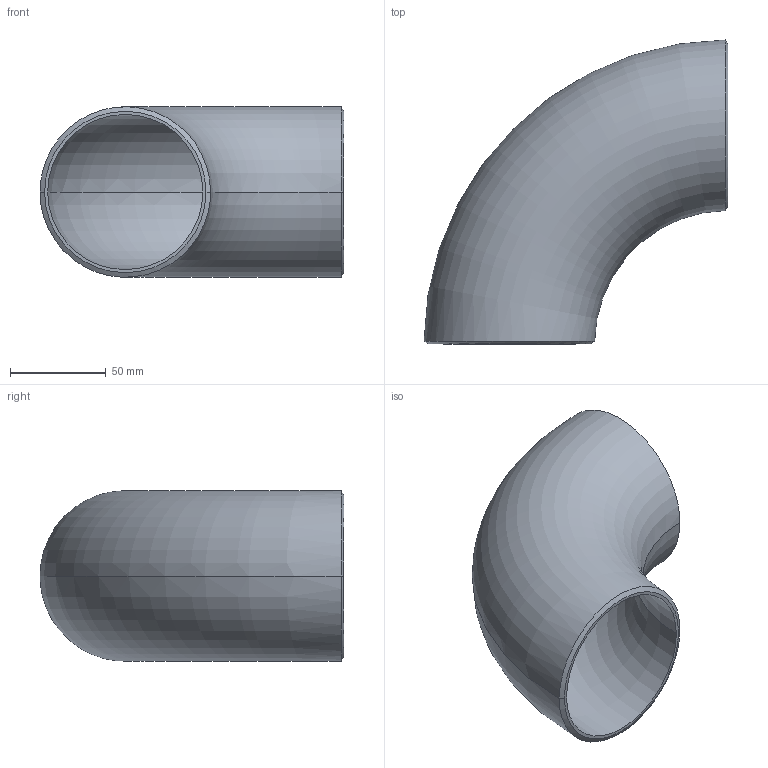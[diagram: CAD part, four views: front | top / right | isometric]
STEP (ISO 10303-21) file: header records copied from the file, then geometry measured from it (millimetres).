
FILE_DESCRIPTION (( 'STEP AP203' ), '1' );
FILE_NAME ('OT200-80-88_9x4_OSTP.step', '2020-12-16T02:38:41', ( '' ), ( '' ), 'SwSTEP 2.0', 'SolidWorks 2014', '' );
FILE_SCHEMA (( 'CONFIG_CONTROL_DESIGN' ));
Length unit declared in the file: millimetre
Products named in the file (1): OT200-80-88_9x4_OSTP
Bounding box: 158.44 x 158.44 x 88.83 mm (x, y, z)
Volume: 190161.8 mm3; surface area: 97087.1 mm2
Topology: 1 solids, 1 shells, 10 faces, 20 edges, 12 vertices
Faces by surface type: torus 4, cone 4, plane 2
Entity records: 611 total; most frequent: CARTESIAN_POINT 317, DIRECTION 50, ORIENTED_EDGE 40, AXIS2_PLACEMENT_3D 23, EDGE_CURVE 20, CIRCLE 12, VERTEX_POINT 12, EDGE_LOOP 12
